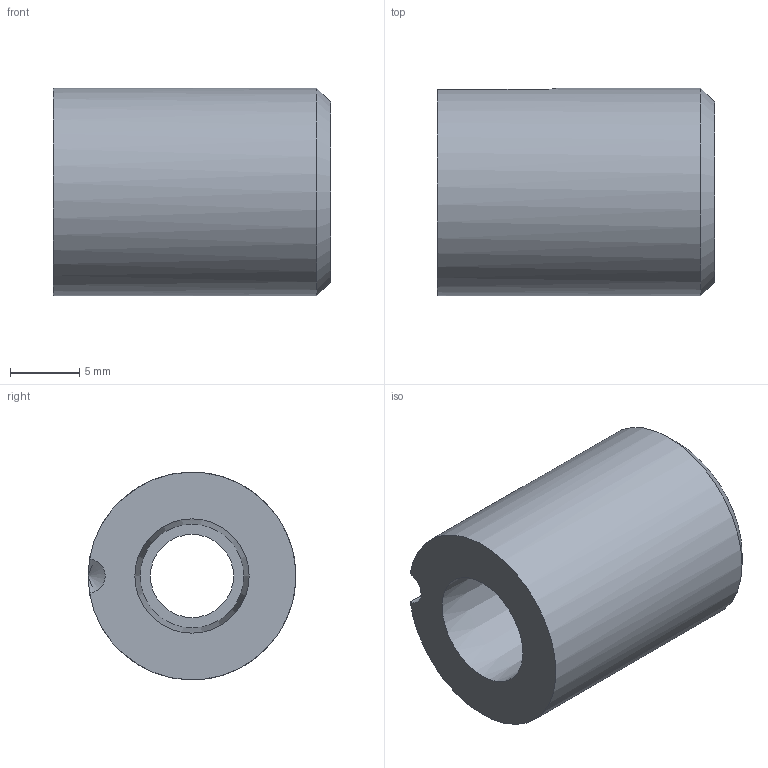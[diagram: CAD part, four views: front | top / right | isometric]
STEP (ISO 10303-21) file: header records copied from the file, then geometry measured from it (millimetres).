
FILE_DESCRIPTION(/* description */ (''),/* implementation_level */ '2;1');
FILE_NAME(/* name */ '',/* time_stamp */ '2026-08-27T17:03:47+09:00',/* author */ ('jhkim'),/* organization */ (''),/* preprocessor_version */ 'ST-DEVELOPER v20.1',/* originating_system */ 'Autodesk Inventor 2027',/* authorisation */ '');
FILE_SCHEMA (('AUTOMOTIVE_DESIGN { 1 0 10303 214 3 1 1 }'));
Length unit declared in the file: millimetre
Products named in the file (1): 센터홀더
Bounding box: 20 x 15 x 15 mm (x, y, z)
Volume: 2681.3 mm3; surface area: 1658.1 mm2
Topology: 1 solids, 1 shells, 9 faces, 19 edges, 12 vertices
Faces by surface type: cone 3, cylinder 3, plane 3
Full cylindrical faces by diameter (mm): 6 x1, 15 x1
Entity records: 291 total; most frequent: DIRECTION 46, CARTESIAN_POINT 46, ORIENTED_EDGE 36, AXIS2_PLACEMENT_3D 20, EDGE_CURVE 18, EDGE_LOOP 12, VERTEX_POINT 12, CIRCLE 10
